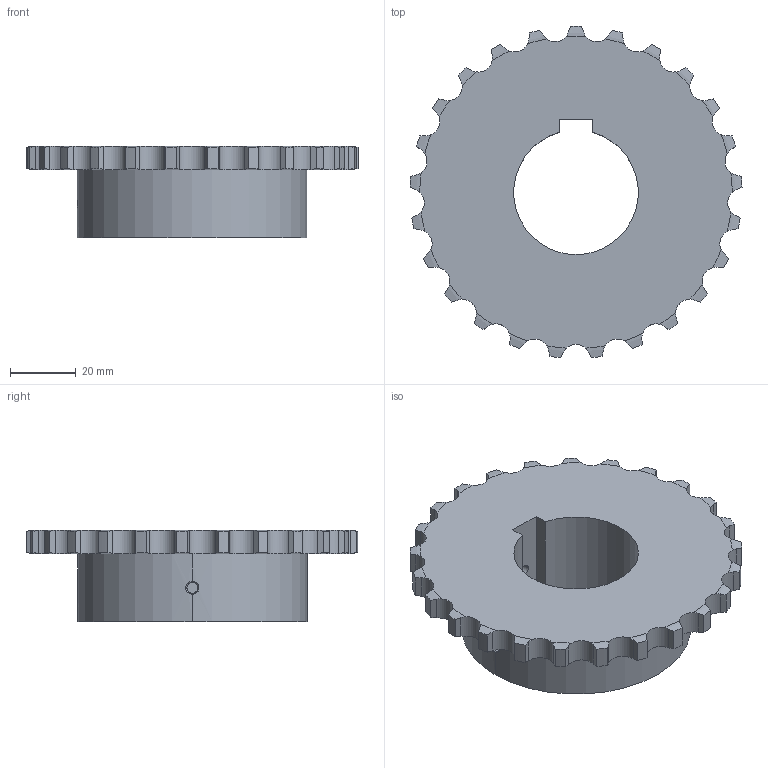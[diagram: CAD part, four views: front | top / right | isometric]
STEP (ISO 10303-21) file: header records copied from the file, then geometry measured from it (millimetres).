
FILE_DESCRIPTION((''),'2;1');
FILE_NAME('510-201-3825_PRT','2021-02-13T',('Brieden'),('Brieden'),'PRO/ENGINEER BY PARAMETRIC TECHNOLOGY CORPORATION, 2010160','PRO/ENGINEER BY PARAMETRIC TECHNOLOGY CORPORATION, 2010160','');
FILE_SCHEMA(('AUTOMOTIVE_DESIGN { 1 0 10303 214 1 1 1 1 }'));
Length unit declared in the file: millimetre
Products named in the file (1): 510-201-3825_PRT
Bounding box: 101.28 x 101.11 x 28 mm (x, y, z)
Volume: 99859 mm3; surface area: 23630.8 mm2
Topology: 1 solids, 1 shells, 170 faces, 495 edges, 328 vertices
Faces by surface type: cylinder 107, torus 50, plane 7, bspline 6
Entity records: 8282 total; most frequent: CARTESIAN_POINT 2506, ORIENTED_EDGE 990, DIRECTION 771, PRESENTATION_STYLE_ASSIGNMENT 496, STYLED_ITEM 496, CURVE_STYLE 495, EDGE_CURVE 495, VERTEX_POINT 328
